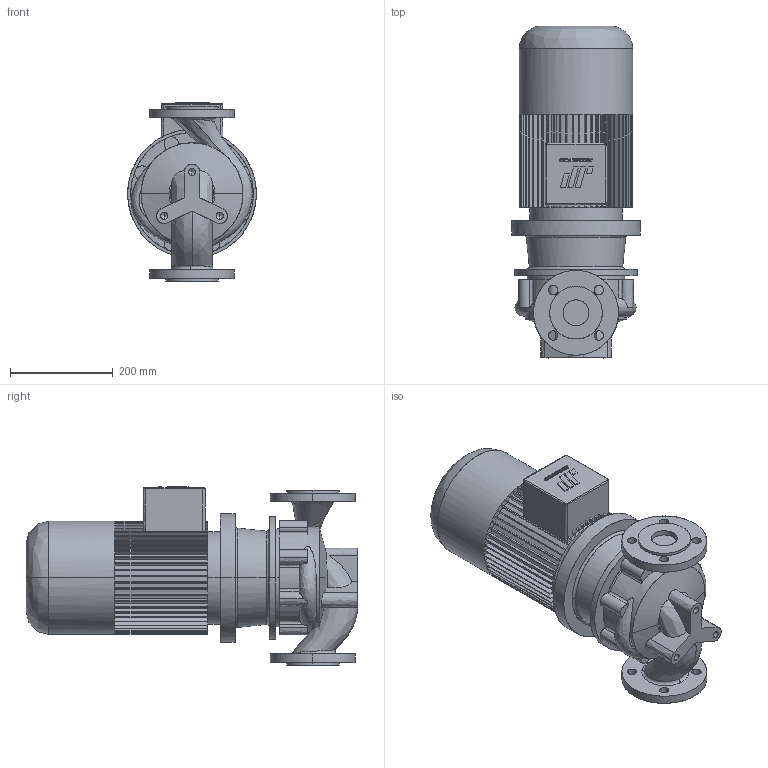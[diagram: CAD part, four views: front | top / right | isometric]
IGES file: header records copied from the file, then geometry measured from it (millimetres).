
Start section: CombiLine
Global section: file name: CLB_50-160_IEC112M_ND10.igs; native system:  By UGS Corp.; preprocessor: XPlus GENERIC/IGES 3.0; author: Stageplaats; organization: Johnson Pump Water B.V.; date: 20070716.114643; units: millimetre
Bounding box: 250 x 644.5 x 347 mm (x, y, z)
Surface area: 929674.2 mm2 (no closed solid volume)
Topology: 0 solids, 0 shells, 548 faces, 3336 edges, 3330 vertices
Faces by surface type: bspline 548
